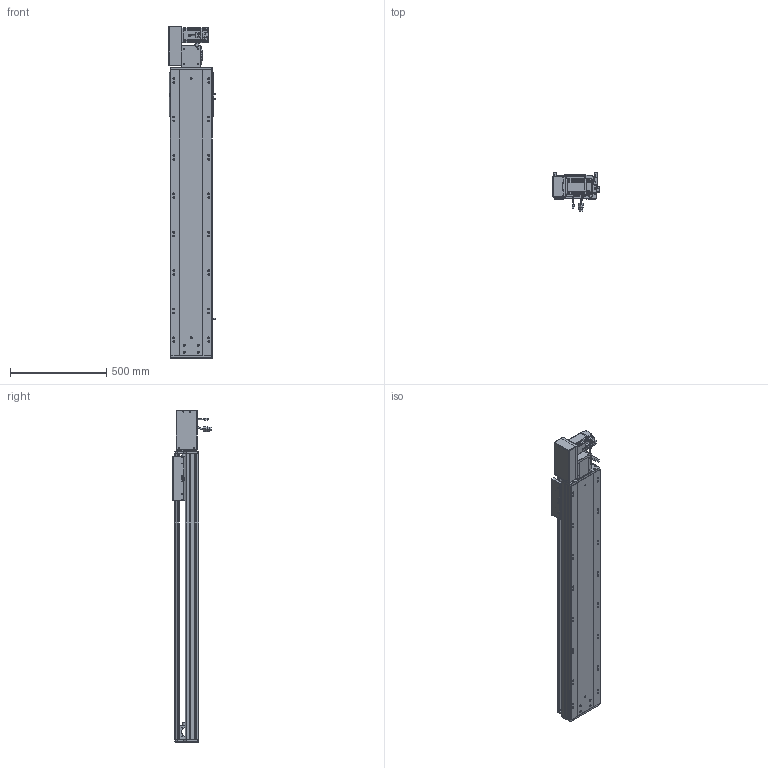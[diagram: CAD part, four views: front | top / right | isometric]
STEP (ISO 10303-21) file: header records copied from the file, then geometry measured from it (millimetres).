
FILE_DESCRIPTION (( 'STEP AP203' ), '1' );
FILE_NAME ('RY220-T-300-LK.SLDASM_1150.step', '2022-07-25T08:14:05', ( '' ), ( '' ), 'SwSTEP 2.0', 'SolidWorks 2016', '' );
FILE_SCHEMA (( 'CONFIG_CONTROL_DESIGN' ));
Length unit declared in the file: millimetre
Products named in the file (14): RY220-T菁釱-300_1150; 怢湛750W_ECMA-CX0807ES; RY220-T-300-奻裔啣_1150; RY220圉猾敕々湍臏賑輸; RY220-同步轮副支撑座6304×2; RY220-T-300-LK.SLDASM_1150; RY220-T-蛌殏萇儂假蚾啣(750W); RY220-俋离672覜茼んえ; 110A-T-肮祭謫釱傷裔; 滅袉蝶18-15; RY220-T-湍謫欶(鍼踢); 覜茼ん672; RY220翋肮祭謫釱; RY220翋肮祭謫裔啣
Assembly tree (18 placements, depth 2):
  RY220-T-300-LK.SLDASM_1150
    RY220-T菁釱-300_1150
    RY220翋肮祭謫釱
    覜茼ん672  x3
    RY220圉猾敕々湍臏賑輸
    RY220-T-300-奻裔啣_1150
    RY220-俋离672覜茼んえ
    滅袉蝶18-15  x3
    RY220翋肮祭謫裔啣  x2
    110A-T-肮祭謫釱傷裔
    怢湛750W_ECMA-CX0807ES
    RY220-T-湍謫欶(鍼踢)
    RY220-T-蛌殏萇儂假蚾啣(750W)
    RY220-同步轮副支撑座6304×2
Bounding box: 239.7 x 198.77 x 1729 mm (x, y, z)
Volume: 13231342.6 mm3; surface area: 3896571.1 mm2
Topology: 19 solids, 19 shells, 2654 faces, 7323 edges, 4642 vertices
Faces by surface type: cylinder 1246, plane 1069, cone 257, bspline 56, sphere 16, torus 10
Entity records: 88291 total; most frequent: CARTESIAN_POINT 25167, ORIENTED_EDGE 13114, DIRECTION 12408, EDGE_CURVE 6557, AXIS2_PLACEMENT_3D 4392, VERTEX_POINT 4266, VECTOR 3624, LINE 3624
